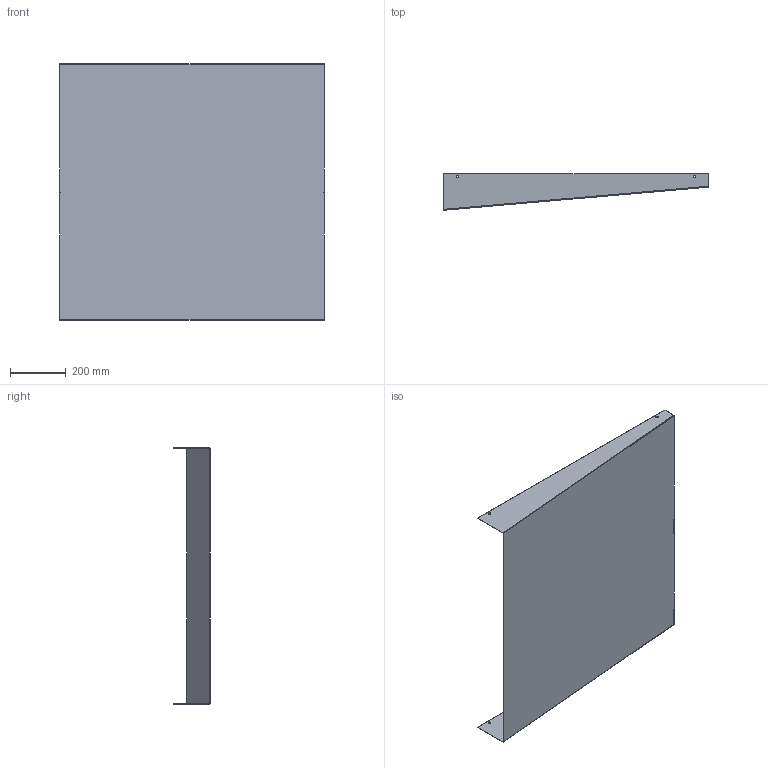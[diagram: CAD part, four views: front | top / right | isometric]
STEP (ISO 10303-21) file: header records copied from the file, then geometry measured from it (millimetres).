
FILE_DESCRIPTION(/* description */ (''),/* implementation_level */ '2;1');
FILE_NAME(/* name */ 'C:\Users\jaaku\Desktop\Projekty\CNCASE\Ergwind MFG4025P\BOM_Assembly\Sink.stp',/* time_stamp */ '2021-06-22T23:09:09+02:00',/* author */ ('jaaku'),/* organization */ (''),/* preprocessor_version */ 'ST-DEVELOPER v18',/* originating_system */ 'Autodesk Inventor 2020',/* authorisation */ '');
FILE_SCHEMA (('AUTOMOTIVE_DESIGN { 1 0 10303 214 3 1 1 }'));
Length unit declared in the file: millimetre
Products named in the file (1): Zlewv2
Bounding box: 950.12 x 130 x 920 mm (x, y, z)
Volume: 1042033.7 mm3; surface area: 2088267.3 mm2
Topology: 1 solids, 1 shells, 34 faces, 84 edges, 52 vertices
Faces by surface type: plane 22, cylinder 8, bspline 4
Full cylindrical faces by diameter (mm): 8 x4
Entity records: 1267 total; most frequent: CARTESIAN_POINT 429, ORIENTED_EDGE 168, DIRECTION 146, EDGE_CURVE 84, LINE 68, VECTOR 68, VERTEX_POINT 52, EDGE_LOOP 42
